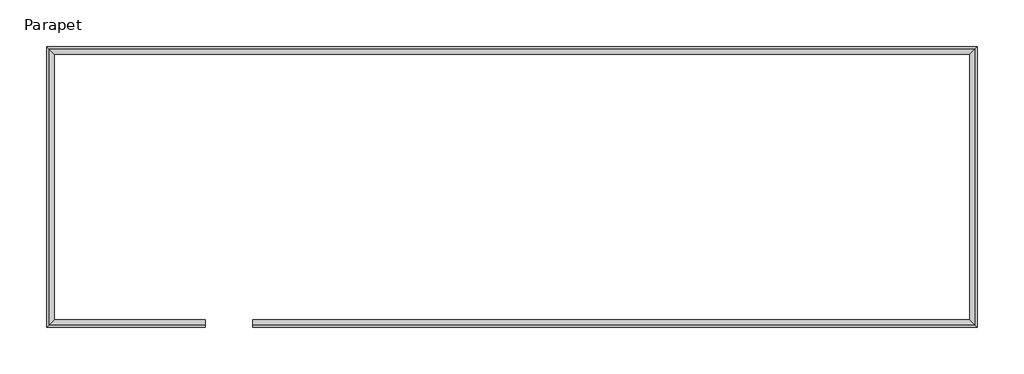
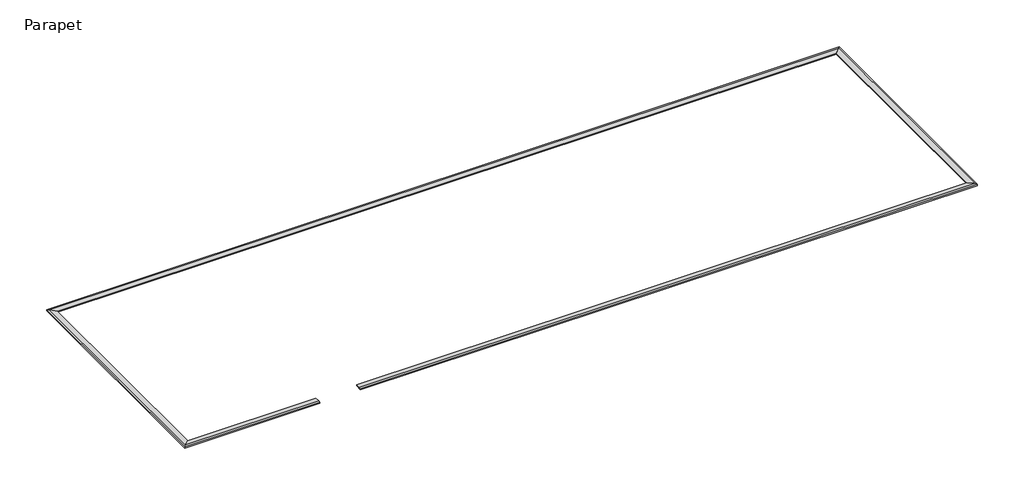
# One storey: 1 proxy.
"""IFC4 building model written with IfcOpenShell, lengths in millimetres."""

import ifcopenshell
import ifcopenshell.guid

model = None  # the IFC model being written
_history = None  # IfcOwnerHistory: only IFC2X3 demands one
_inside = {}  # id of a spatial element -> (the spatial element, [elements in it])
_under = {}  # id of a project, library or spatial element -> (it, [spatial elements below it])
_declared = {}  # id of a project -> (the project, [libraries it declares])
_typed = {}  # id of a type object -> (the type object, [elements of that type])
_made_of = {}  # id of a material, layer set ... -> (it, [elements and type objects made of it])


def new_model(schema):
    """Start an empty IFC model of exactly this schema.

    Asked for "IFC4X3", IfcOpenShell would pick the latest addendum, in which some entities
    have other attributes; the version numbers below select the first issue.
    IFC2X3 requires an IfcOwnerHistory on every rooted entity: one is made here for all.
    """
    global model, _history
    if schema == "IFC4X3":
        model = ifcopenshell.file(schema_version=(4, 3, 0, 0))
    else:
        model = ifcopenshell.file(schema=schema)
    _inside.clear()
    _under.clear()
    _declared.clear()
    _typed.clear()
    _made_of.clear()
    _history = None
    if model.schema == "IFC2X3":
        org = make("IfcOrganization", Name="unknown")
        user = make(
            "IfcPersonAndOrganization",
            ThePerson=make("IfcPerson", FamilyName="unknown"),
            TheOrganization=org,
        )
        app = make(
            "IfcApplication",
            ApplicationDeveloper=org,
            Version="unknown",
            ApplicationFullName="unknown",
            ApplicationIdentifier="unknown",
        )
        _history = make(
            "IfcOwnerHistory",
            OwningUser=user,
            OwningApplication=app,
            ChangeAction="ADDED",
            CreationDate=0,
        )
    return model


def make(cls, **values):
    """One entity of the class cls with the attributes given. An attribute that is None is left unset."""
    return model.create_entity(
        cls, **{name: value for name, value in values.items() if value is not None}
    )


def rooted(cls, **values):
    """An entity with a GlobalId (a new one), such as an element, a storey or a relation."""
    return make(cls, GlobalId=ifcopenshell.guid.new(), OwnerHistory=_history, **values)


def si_unit(unit_type, name, prefix=None):
    """IfcSIUnit, for example si_unit("LENGTHUNIT", "METRE", prefix="MILLI")."""
    return make("IfcSIUnit", UnitType=unit_type, Prefix=prefix, Name=name)


def assignment(units):
    """IfcUnitAssignment: the units of a project."""
    return None if units is None else make("IfcUnitAssignment", Units=units)


def point(xyz):
    """IfcCartesianPoint."""
    return None if xyz is None else make("IfcCartesianPoint", Coordinates=xyz)


def direction(xyz):
    """IfcDirection."""
    return None if xyz is None else make("IfcDirection", DirectionRatios=xyz)


def frame(location, z_axis=None, x_axis=None):
    """IfcAxis2Placement3D, a coordinate frame: its origin and axes. An axis left out is left unset."""
    return make(
        "IfcAxis2Placement3D",
        Location=point(location),
        Axis=direction(z_axis),
        RefDirection=direction(x_axis),
    )


def origin():
    """The frame at (0, 0, 0) with its axes left unset."""
    return frame((0.0, 0.0, 0.0))


def place(relative_to, where):
    """IfcLocalPlacement: puts the frame where relative to a parent placement (None: the world)."""
    return make(
        "IfcLocalPlacement", PlacementRelTo=relative_to, RelativePlacement=where
    )


def context(
    kind, dimensions, precision=None, world=None, true_north=None, identifier=None
):
    """IfcGeometricRepresentationContext, for example the 3D "Model" context."""
    return make(
        "IfcGeometricRepresentationContext",
        ContextIdentifier=identifier,
        ContextType=kind,
        CoordinateSpaceDimension=dimensions,
        Precision=precision,
        WorldCoordinateSystem=world,
        TrueNorth=true_north,
    )


def project(units=None, contexts=None):
    """IfcProject with its units and contexts."""
    return rooted(
        "IfcProject",
        Name="project",
        RepresentationContexts=contexts,
        UnitsInContext=assignment(units),
    )


def spatial(cls, under=None, at=None, **own):
    """A site, building, storey or space (cls), placed at a placement, below another one or the project."""
    s = rooted(cls, ObjectPlacement=at, **own)
    if under is not None:
        _under.setdefault(under.id(), (under, []))[1].append(s)
    return s


def faces_of(points, faces, orient=None, outer=None):
    """IfcFace entities. A face is a list of loops; a loop is a list of indices into points, from 0.

    orient and outer hold one flag for each loop. By default every Orientation is true, the
    first loop of a face is its IfcFaceOuterBound and the others are IfcFaceBound.
    """
    made = []
    for i, loops in enumerate(faces):
        bounds = []
        for j, loop in enumerate(loops):
            is_outer = j == 0 if outer is None else outer[i][j]
            bounds.append(
                make(
                    "IfcFaceOuterBound" if is_outer else "IfcFaceBound",
                    Bound=make("IfcPolyLoop", Polygon=[points[k] for k in loop]),
                    Orientation=True if orient is None else orient[i][j],
                )
            )
        made.append(make("IfcFace", Bounds=bounds))
    return made


def faceted_brep(points, faces, orient=None, outer=None, voids=None):
    """IfcFacetedBrep: a solid bounded by flat faces; with voids (closed shells), ...WithVoids."""
    shared = [point(p) for p in points]
    hull = make("IfcClosedShell", CfsFaces=faces_of(shared, faces, orient, outer))
    if voids is None:
        return make("IfcFacetedBrep", Outer=hull)
    return make(
        "IfcFacetedBrepWithVoids",
        Outer=hull,
        Voids=[
            make(cls, CfsFaces=faces_of(shared, fs, o, b)) for cls, fs, o, b in voids
        ],
    )


def shape(context_of_items, identifier, shape_type, items):
    """IfcShapeRepresentation: the items that make up one representation, for example the "Body"."""
    return make(
        "IfcShapeRepresentation",
        ContextOfItems=context_of_items,
        RepresentationIdentifier=identifier,
        RepresentationType=shape_type,
        Items=items,
    )


def made_of(thing, what):
    """Note that an element or type object is made of a material, layer set ...; save() writes the relation."""
    if what is not None:
        _made_of.setdefault(what.id(), (what, []))[1].append(thing)
    return thing


def element(
    cls,
    number,
    at=None,
    inside=None,
    cuts=None,
    type_object=None,
    material=None,
    context=None,
    identifier="Body",
    shape_type=None,
    held_by="IfcProductDefinitionShape",
    body=None,
    shapes=None,
    **own,
):
    """One element of the class cls, such as IfcWall. Its Tag is "e" and its number.

    at: its placement. inside: the storey or other place that contains it. cuts: it is an
    opening in that element (IfcRelVoidsElement). A single representation is given by context,
    identifier, shape_type and body (its items); several are given by shapes. held_by: the class
    of the entity that holds the representations. save() writes the other relations.
    """
    e = rooted(cls, Tag="e%d" % number, ObjectPlacement=at, **own)
    if body is not None:
        shapes = [shape(context, identifier, shape_type, body)]
    if shapes is not None:
        e.Representation = make(held_by, Representations=shapes)
    if inside is not None:
        _inside.setdefault(inside.id(), (inside, []))[1].append(e)
    if cuts is not None:
        rooted(
            "IfcRelVoidsElement", RelatingBuildingElement=cuts, RelatedOpeningElement=e
        )
    if type_object is not None:
        _typed.setdefault(type_object.id(), (type_object, []))[1].append(e)
    return made_of(e, material)


def aggregate(whole, parts):
    """IfcRelAggregates: a whole, such as a stair, and the parts it consists of."""
    return rooted("IfcRelAggregates", RelatingObject=whole, RelatedObjects=parts)


def save(model, path):
    """Write the relations noted so far, then the file.

    IfcRelAggregates (storeys below a building ...), IfcRelContainedInSpatialStructure (elements
    in a storey), IfcRelDefinesByType, IfcRelAssociatesMaterial and IfcRelDeclares: one each for
    every whole, place, type object, material and project.
    """
    for whole, parts in _under.values():
        aggregate(whole, parts)
    for where, things in _inside.values():
        rooted(
            "IfcRelContainedInSpatialStructure",
            RelatedElements=things,
            RelatingStructure=where,
        )
    for kind, things in _typed.values():
        rooted("IfcRelDefinesByType", RelatedObjects=things, RelatingType=kind)
    for what, things in _made_of.values():
        rooted("IfcRelAssociatesMaterial", RelatedObjects=things, RelatingMaterial=what)
    for by, libraries in _declared.values():
        rooted("IfcRelDeclares", RelatingContext=by, RelatedDefinitions=libraries)
    model.write(path)


model = new_model("IFC4")

# Units and contexts
model_context = context("Model", 3, world=origin())
ifc_project = project(units=[si_unit("LENGTHUNIT", "METRE", prefix="MILLI")], contexts=[model_context])

# Site, building, storey
site = spatial("IfcSite", under=ifc_project)
building = spatial("IfcBuilding", under=site)
storey = spatial("IfcBuildingStorey", under=building, Name="Parapet", Elevation=20574.0)

# Proxy
placement = place(None, origin())
element("IfcBuildingElementProxy", 1, Name="Coping", ObjectType="Coping", at=placement, inside=storey, context=model_context, shape_type="Brep", body=[
    faceted_brep([(61448.9817024, 57312.724389, 20688.3), (61855.3817024, 57719.124389, 20726.4), (62007.7817024, 57871.524389, 20688.3), (62007.7817024, 57871.524389, 20574.0), (61448.9817024, 57312.724389, 20574.0), (61448.9817024, 38672.299389, 20688.3), (61448.9817024, 38672.299389, 20574.0), (62007.7817024, 38113.499389, 20574.0), (62007.7817024, 38113.499389, 20688.3), (61855.3817024, 38265.899389, 20726.4)], [[[0, 1, 2, 3, 4]], [[5, 6, 7, 8, 9]], [[1, 0, 5, 9]], [[2, 1, 9, 8]], [[3, 2, 8, 7]], [[4, 3, 7, 6]], [[0, 4, 6, 5]]]),
    faceted_brep([(61448.9817024, 38672.299389, 20688.3), (61855.3817024, 38265.899389, 20726.4), (62007.7817024, 38113.499389, 20688.3), (62007.7817024, 38113.499389, 20574.0), (61448.9817024, 38672.299389, 20574.0), (11050.6192024, 38672.299389, 20688.3), (11050.6192024, 38672.299389, 20574.0), (11050.6192024, 38113.499389, 20574.0), (11050.6192024, 38113.499389, 20688.3), (11050.6192024, 38265.899389, 20726.4)], [[[0, 1, 2, 3, 4]], [[5, 6, 7, 8, 9]], [[1, 0, 5, 9]], [[2, 1, 9, 8]], [[3, 2, 8, 7]], [[4, 3, 7, 6]], [[0, 4, 6, 5]]]),
    faceted_brep([(-2911.8227165, 57312.724389, 20688.3), (-3318.2227165, 57719.124389, 20726.4), (-3470.6227165, 57871.524389, 20688.3), (-3470.6227165, 57871.524389, 20574.0), (-2911.8227165, 57312.724389, 20574.0), (61448.9817024, 57312.724389, 20688.3), (61448.9817024, 57312.724389, 20574.0), (62007.7817024, 57871.524389, 20574.0), (62007.7817024, 57871.524389, 20688.3), (61855.3817024, 57719.124389, 20726.4)], [[[0, 1, 2, 3, 4]], [[5, 6, 7, 8, 9]], [[1, 0, 5, 9]], [[2, 1, 9, 8]], [[3, 2, 8, 7]], [[4, 3, 7, 6]], [[0, 4, 6, 5]]]),
    faceted_brep([(-2911.8227165, 38672.299389, 20688.3), (-3318.2227165, 38265.899389, 20726.4), (-3470.6227165, 38113.499389, 20688.3), (-3470.6227165, 38113.499389, 20574.0), (-2911.8227165, 38672.299389, 20574.0), (-2911.8227165, 57312.724389, 20688.3), (-2911.8227165, 57312.724389, 20574.0), (-3470.6227165, 57871.524389, 20574.0), (-3470.6227165, 57871.524389, 20688.3), (-3318.2227165, 57719.124389, 20726.4)], [[[0, 1, 2, 3, 4]], [[5, 6, 7, 8, 9]], [[1, 0, 5, 9]], [[2, 1, 9, 8]], [[3, 2, 8, 7]], [[4, 3, 7, 6]], [[0, 4, 6, 5]]]),
    faceted_brep([(7675.2526119, 38672.299389, 20688.3), (7675.2526119, 38265.899389, 20726.4), (7675.2526119, 38113.499389, 20688.3), (7675.2526119, 38113.499389, 20574.0), (7675.2526119, 38672.299389, 20574.0), (-2911.8227165, 38672.299389, 20688.3), (-2911.8227165, 38672.299389, 20574.0), (-3470.6227165, 38113.499389, 20574.0), (-3470.6227165, 38113.499389, 20688.3), (-3318.2227165, 38265.899389, 20726.4)], [[[0, 1, 2, 3, 4]], [[5, 6, 7, 8, 9]], [[1, 0, 5, 9]], [[2, 1, 9, 8]], [[3, 2, 8, 7]], [[4, 3, 7, 6]], [[0, 4, 6, 5]]]),
])

save(model, "model.ifc")
